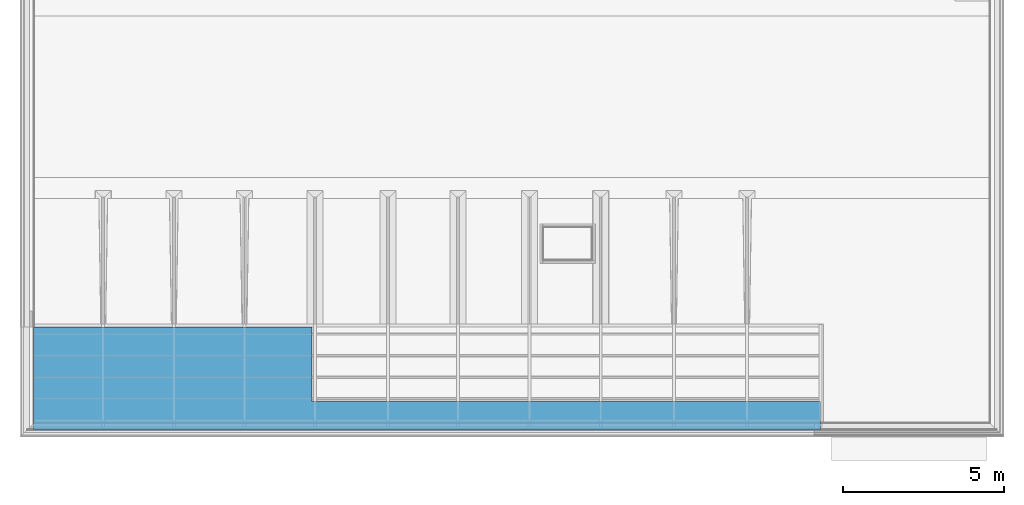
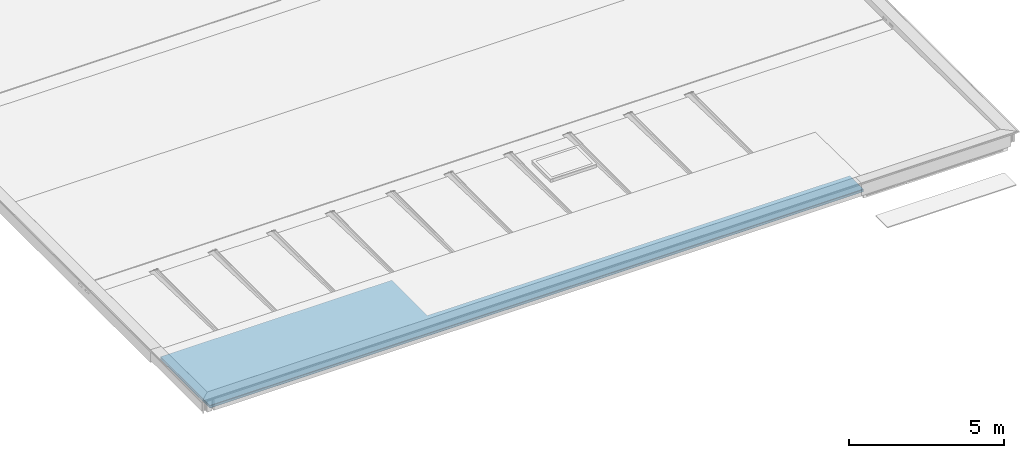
# One storey, part 7 of 16: 4 building element parts, 1 element without a shape of its own.
"""IFC2X3 building model written with IfcOpenShell, lengths in millimetres."""

from ifc_helpers import new_model, entity, si_unit, converted_unit, derived_unit, money_unit, direction, frame, origin_with_axes, place, context, subcontext, project, spatial, faceted_brep, material, type_object, element, aggregate, save


model = new_model("IFC2X3")

# Units and contexts
model_context = context("Model", 3, precision=0.01, world=origin_with_axes(), true_north=direction((0.0, 1.0)))
body_context = subcontext(model_context, "Body", "Model", "MODEL_VIEW")
ifc_project = project(units=[si_unit("LENGTHUNIT", "METRE", prefix="MILLI"), si_unit("AREAUNIT", "SQUARE_METRE"), si_unit("VOLUMEUNIT", "CUBIC_METRE"), converted_unit("PLANEANGLEUNIT", "DEGREE", entity("IfcPlaneAngleMeasure", 0.0174532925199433), si_unit("PLANEANGLEUNIT", "RADIAN"), dimensions=[0, 0, 0, 0, 0, 0, 0]), money_unit("EUR"), converted_unit("TIMEUNIT", "Year", entity("IfcTimeMeasure", 31556926.0), si_unit("TIMEUNIT", "SECOND"), dimensions=[0, 0, 1, 0, 0, 0, 0]), si_unit("MASSUNIT", "GRAM", prefix="KILO"), si_unit("THERMODYNAMICTEMPERATUREUNIT", "DEGREE_CELSIUS"), si_unit("LUMINOUSINTENSITYUNIT", "LUMEN"), si_unit("ENERGYUNIT", "JOULE", prefix="MEGA"), derived_unit("THERMALCONDUCTANCEUNIT", [(si_unit("POWERUNIT", "WATT"), 1), (si_unit("LENGTHUNIT", "METRE"), -1), (si_unit("THERMODYNAMICTEMPERATUREUNIT", "KELVIN"), -1)]), derived_unit("SPECIFICHEATCAPACITYUNIT", [(si_unit("ENERGYUNIT", "JOULE"), 1), (si_unit("MASSUNIT", "GRAM", prefix="KILO"), -1), (si_unit("THERMODYNAMICTEMPERATUREUNIT", "KELVIN"), -1)]), derived_unit("MASSDENSITYUNIT", [(si_unit("MASSUNIT", "GRAM", prefix="KILO"), 1), (si_unit("VOLUMEUNIT", "CUBIC_METRE"), -1)])], contexts=[model_context])

# Site, building, storey
site_placement = place(None, origin_with_axes())
site = spatial("IfcSite", under=ifc_project, at=site_placement, Name="Site", CompositionType="ELEMENT")
building_placement = place(site_placement, origin_with_axes())
building = spatial("IfcBuilding", under=site, at=building_placement, Name="Naam gebouw", CompositionType="ELEMENT")
storey_placement = place(building_placement, frame((0.0, 0.0, 7820.0), z_axis=(0.0, 0.0, 1.0), x_axis=(1.0, 0.0, 0.0)))
storey = spatial("IfcBuildingStorey", under=building, at=storey_placement, Name="2e dakoverzicht", CompositionType="ELEMENT", Elevation=7820.0)

# Slab, building element parts
slab_type = type_object("IfcSlabType", Name="45 Geisoleerd buiten plafond 80 104", PredefinedType="NOTDEFINED")
slab_placement = place(storey_placement, frame((131.9999969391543, 6779.999776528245, 99.00004846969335), z_axis=(0.0, 0.0, 1.0), x_axis=(1.0, 0.0, 0.0)))
slab = element("IfcSlab", 1, at=slab_placement, inside=storey, type_object=slab_type, Name="_Vloer-x", PredefinedType="NOTDEFINED")
ifc_material_1 = material(Name="STO weefsellaag")
building_element_part_1_placement = place(slab_placement, origin_with_axes())
building_element_part_1 = element("IfcBuildingElementPart", 2, at=building_element_part_1_placement, material=ifc_material_1, Name="STO weefsellaag", context=body_context, shape_type="Brep", body=[
    faceted_brep([(0.0002821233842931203, -3180.001961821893, -101.0), (0.0002821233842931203, -3180.001961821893, -96.00000000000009), (0.0, 0.0, -96.00000000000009), (0.0, 0.0, -101.0), (24367.99909065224, -3179.999755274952, -101.0), (24367.99909065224, -3179.999755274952, -96.00000000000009), (24367.99901084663, -2299.999816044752, -96.00000000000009), (8618.000003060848, -2300.001242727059, -96.00000000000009), (8617.99979404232, 0.0009164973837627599, -96.00000000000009), (8617.99979404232, 0.0009164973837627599, -101.0), (8618.000003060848, -2300.001242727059, -101.0), (24367.99901084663, -2299.999816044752, -101.0)], [[[0, 1, 2, 3]], [[4, 5, 1, 0]], [[2, 1, 5, 6, 7, 8]], [[3, 2, 8, 9]], [[3, 9, 10, 11, 4, 0]], [[11, 6, 5, 4]], [[10, 7, 6, 11]], [[9, 8, 7, 10]]]),
])
ifc_material_2 = material(Name="Cementgebonden plaatmateriaal")
building_element_part_2_placement = place(slab_placement, origin_with_axes())
building_element_part_2 = element("IfcBuildingElementPart", 3, at=building_element_part_2_placement, material=ifc_material_2, Name="Cementgebonden plaatmateriaal", context=body_context, shape_type="Brep", body=[
    faceted_brep([(0.0002821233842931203, -3180.001961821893, -11.99999999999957), (0.0002821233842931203, -3180.001961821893, 0.0), (0.0, 0.0, 0.0), (0.0, 0.0, -11.99999999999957), (24367.99909065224, -3179.999755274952, -11.99999999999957), (24367.99909065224, -3179.999755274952, 0.0), (24367.99901084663, -2299.999816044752, 0.0), (8618.000003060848, -2300.001242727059, 0.0), (8617.99979404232, 0.0009164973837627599, 0.0), (8617.99979404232, 0.0009164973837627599, -11.99999999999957), (8618.000003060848, -2300.001242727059, -11.99999999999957), (24367.99901084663, -2299.999816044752, -11.99999999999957)], [[[0, 1, 2, 3]], [[4, 5, 1, 0]], [[2, 1, 5, 6, 7, 8]], [[3, 2, 8, 9]], [[3, 9, 10, 11, 4, 0]], [[11, 6, 5, 4]], [[10, 7, 6, 11]], [[9, 8, 7, 10]]]),
])
ifc_material_3 = material(Name="STO pleisterlaag")
building_element_part_3_placement = place(slab_placement, origin_with_axes())
building_element_part_3 = element("IfcBuildingElementPart", 4, at=building_element_part_3_placement, material=ifc_material_3, Name="STO pleisterlaag", context=body_context, shape_type="Brep", body=[
    faceted_brep([(0.0, 0.0, -104.0000000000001), (0.0002821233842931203, -3180.001961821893, -104.0000000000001), (0.0002821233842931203, -3180.001961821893, -101.0), (0.0, 0.0, -101.0), (8617.99979404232, 0.0009164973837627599, -104.0000000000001), (8618.000003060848, -2300.001242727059, -104.0000000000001), (24367.99901084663, -2299.999816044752, -104.0000000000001), (24367.99909065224, -3179.999755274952, -104.0000000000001), (24367.99909065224, -3179.999755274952, -101.0), (24367.99901084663, -2299.999816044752, -101.0), (8618.000003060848, -2300.001242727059, -101.0), (8617.99979404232, 0.0009164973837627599, -101.0)], [[[0, 1, 2, 3]], [[0, 4, 5, 6, 7, 1]], [[1, 7, 8, 2]], [[3, 2, 8, 9, 10, 11]], [[4, 0, 3, 11]], [[5, 4, 11, 10]], [[6, 5, 10, 9]], [[7, 6, 9, 8]]]),
])
ifc_material_4 = material(Name="Isolatie - STO EPS")
building_element_part_4_placement = place(slab_placement, origin_with_axes())
building_element_part_4 = element("IfcBuildingElementPart", 5, at=building_element_part_4_placement, material=ifc_material_4, Name="Isolatie - STO EPS", context=body_context, shape_type="Brep", body=[
    faceted_brep([(0.0002821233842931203, -3180.001961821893, -96.00000000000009), (0.0002821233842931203, -3180.001961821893, -16.00000000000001), (0.0, 0.0, -16.00000000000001), (0.0, 0.0, -96.00000000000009), (24367.99909065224, -3179.999755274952, -96.00000000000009), (24367.99909065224, -3179.999755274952, -16.00000000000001), (24367.99901084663, -2299.999816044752, -16.00000000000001), (8618.000003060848, -2300.001242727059, -16.00000000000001), (8617.99979404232, 0.0009164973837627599, -16.00000000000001), (8617.99979404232, 0.0009164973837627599, -96.00000000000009), (8618.000003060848, -2300.001242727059, -96.00000000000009), (24367.99901084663, -2299.999816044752, -96.00000000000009)], [[[0, 1, 2, 3]], [[4, 5, 1, 0]], [[2, 1, 5, 6, 7, 8]], [[3, 2, 8, 9]], [[3, 9, 10, 11, 4, 0]], [[11, 6, 5, 4]], [[10, 7, 6, 11]], [[9, 8, 7, 10]]]),
])
aggregate(slab, [building_element_part_1, building_element_part_2, building_element_part_3, building_element_part_4])

save(model, "model.ifc")
